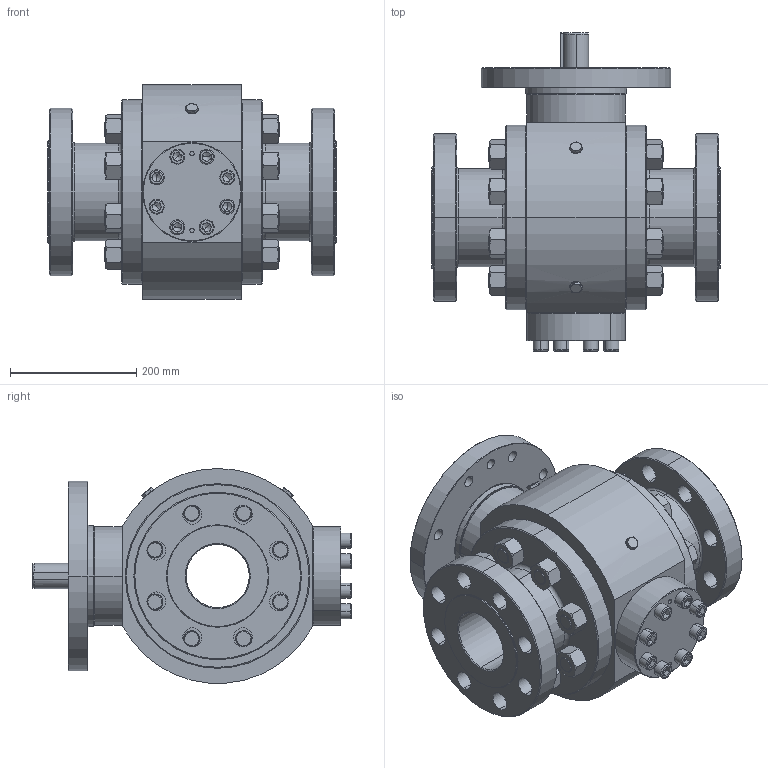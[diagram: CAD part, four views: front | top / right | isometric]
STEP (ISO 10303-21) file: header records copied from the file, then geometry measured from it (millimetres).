
FILE_DESCRIPTION (( 'STEP AP203' ), '1' );
FILE_NAME ('Fig.6090 DN-100 PN-160.STEP', '2017-04-19T15:27:50', ( 'admin' ), ( 'Hewlett-Packard Company' ), 'SwSTEP 2.0', 'SolidWorks 2016', '' );
FILE_SCHEMA (( 'CONFIG_CONTROL_DESIGN' ));
Length unit declared in the file: millimetre
Products named in the file (17): Fig.6090 DN-100 PN-160; 6050TB100EG; 6090TB100C; DIN 912 M16 x 65 _ 44_DIN 912 M16x1.5 x 70 --- 44N; 6090TB100L160; DIN 912 M16 x 80 _ 44_DIN 912 M16x1.5 x 70 --- 44N; 6050TB100B; DIN 6325 - 10 x 30; 6050TB100E; UNC 1-8 x 94; 6050TB0100SA; UNC 1-8_HHNUT 1.0000-8-D-C; 6090TB100FI; 101070CH; 6090TB100FSFF; Tapón purga 0,5 NPT; 6090TB100PPST
Assembly tree (60 placements, depth 2):
  Fig.6090 DN-100 PN-160
    6090TB100C
    6090TB100L160  x2
    6050TB100B
    6050TB100E
    6050TB0100SA  x2
    6090TB100FI
    6090TB100FSFF
    6090TB100PPST
    6050TB100EG
    DIN 912 M16 x 65 _ 44_DIN 912 M16x1.5 x 70 --- 44N  x8
    DIN 912 M16 x 80 _ 44_DIN 912 M16x1.5 x 70 --- 44N  x4
    DIN 6325 - 10 x 30  x2
    UNC 1-8 x 94  x16
    UNC 1-8_HHNUT 1.0000-8-D-C  x16
    101070CH
    Tapón purga 0,5 NPT  x2
Bounding box: 457 x 503.2 x 340 mm (x, y, z)
Volume: 24698690.6 mm3; surface area: 2279988.7 mm2
Topology: 60 solids, 60 shells, 1955 faces, 4325 edges, 2510 vertices
Faces by surface type: cone 661, cylinder 632, plane 506, torus 118, bspline 36, sphere 2
Entity records: 41690 total; most frequent: CARTESIAN_POINT 17131, DIRECTION 4900, ORIENTED_EDGE 4114, EDGE_CURVE 2057, AXIS2_PLACEMENT_3D 2051, VERTEX_POINT 1275, EDGE_LOOP 1188, CIRCLE 1086
